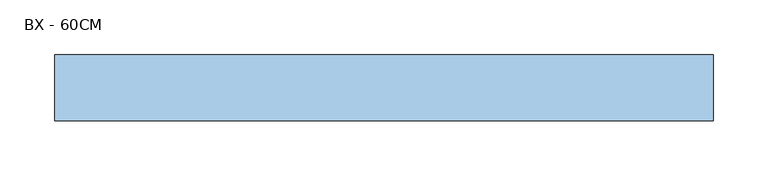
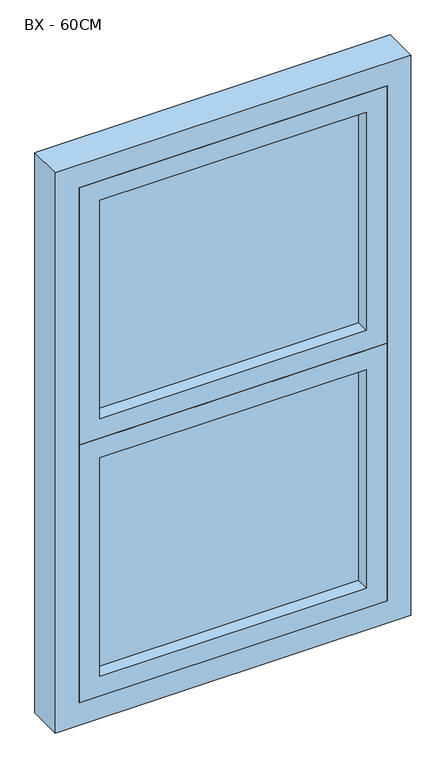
"""IFC4 building model written with IfcOpenShell, lengths in millimetres: window geometry, Janela pivotante horizontal - 2 Painéis : BX - 60CM."""

from ifc_helpers import new_model, si_unit, frame, origin, place, context, project, spatial, polyline, outline, extrude, source, transform, mapped, element, save


def bx_60cm_cef95a5c(model_context):
    return source(origin(), model_context, "Body", "SweptSolid", [
        extrude(outline(polyline([(-225.0, 38.0), (-225.0, 52.0), (225.0, 52.0), (225.0, 38.0), (-225.0, 38.0)])), frame((0.0, 0.0, 725.0), z_axis=(0.0, 0.0, 1.0), x_axis=(1.0, 0.0, 0.0)), (0.0, 0.0, 1.0), 390.0),
        extrude(outline(polyline([(-225.0, 38.0), (-225.0, 52.0), (225.0, 52.0), (225.0, 38.0), (-225.0, 38.0)])), frame((0.0, 0.0, 1185.0), z_axis=(0.0, 0.0, 1.0), x_axis=(1.0, 0.0, 0.0)), (0.0, 0.0, 1.0), 390.0),
        extrude(outline(polyline([(690.0, 260.0), (1150.0, 260.0), (1150.0, -260.0), (690.0, -260.0), (690.0, 260.0)]), holes=[polyline([(1115.0, 225.0), (725.0, 225.0), (725.0, -225.0), (1115.0, -225.0), (1115.0, 225.0)])]), frame((0.0, 15.0, 0.0), z_axis=(0.0, 1.0, 0.0), x_axis=(0.0, 0.0, 1.0)), (0.0, 0.0, 1.0), 60.0),
        extrude(outline(polyline([(650.0, 300.0), (1650.0, 300.0), (1650.0, -300.0), (650.0, -300.0), (650.0, 300.0)]), holes=[polyline([(1610.0, 260.0), (690.0, 260.0), (690.0, -260.0), (1610.0, -260.0), (1610.0, 260.0)])]), frame((0.0, 15.0, 0.0), z_axis=(0.0, 1.0, 0.0), x_axis=(0.0, 0.0, 1.0)), (0.0, 0.0, 1.0), 60.0),
        extrude(outline(polyline([(1150.0, 260.0), (1610.0, 260.0), (1610.0, -260.0), (1150.0, -260.0), (1150.0, 260.0)]), holes=[polyline([(1575.0, 225.0), (1185.0, 225.0), (1185.0, -225.0), (1575.0, -225.0), (1575.0, 225.0)])]), frame((0.0, 15.0, 0.0), z_axis=(0.0, 1.0, 0.0), x_axis=(0.0, 0.0, 1.0)), (0.0, 0.0, 1.0), 60.0),
    ])


if __name__ == "__main__":
    model = new_model("IFC4")
    model_context = context("Model", 3, world=origin())
    ifc_project = project(units=[si_unit("LENGTHUNIT", "METRE", prefix="MILLI")], contexts=[model_context])
    site = spatial("IfcSite", under=ifc_project)
    building = spatial("IfcBuilding", under=site)
    placement = place(None, origin())
    bx_60cm_shape = bx_60cm_cef95a5c(model_context)
    element("IfcWindow", 1, ObjectType="Janela pivotante horizontal - 2 Painéis : BX - 60CM", at=placement, inside=building, context=model_context, shape_type="MappedRepresentation", body=[
        mapped(bx_60cm_shape, transform((0.0, 0.0, 0.0), x_axis=(1.0, 0.0, 0.0), y_axis=(0.0, 1.0, 0.0), z_axis=(0.0, 0.0, 1.0))),
    ])
    save(model, "model.ifc")
